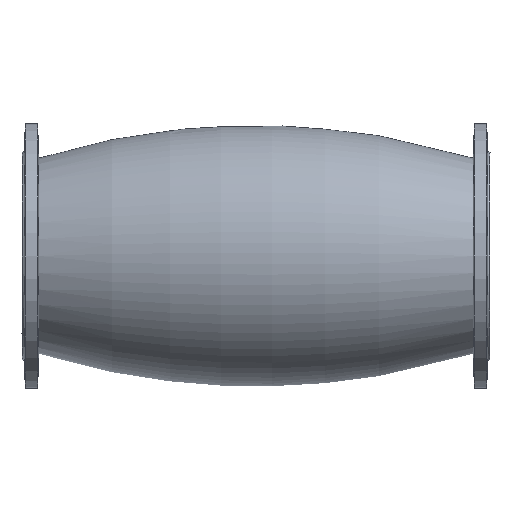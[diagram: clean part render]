
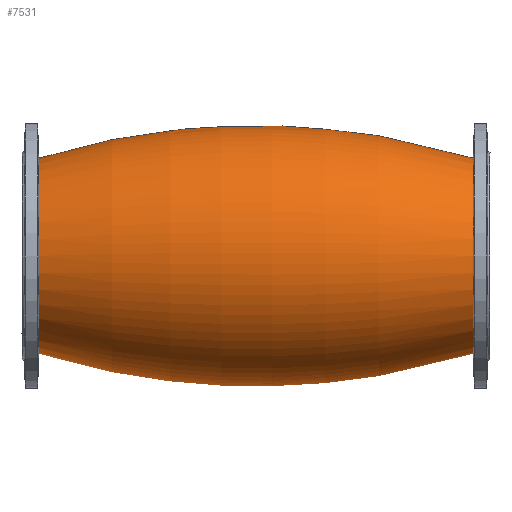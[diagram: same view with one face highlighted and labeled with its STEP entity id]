
A CAD part, front view. The second image highlights one B-rep face of the part: STEP entity #7531.
In plain terms, the highlighted toroidal (fillet/blend) face has major radius 778.594 mm and minor radius 945.903 mm.
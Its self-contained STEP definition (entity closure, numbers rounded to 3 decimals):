
#26=DEGENERATE_TOROIDAL_SURFACE('',#8144,778.594,945.903,
 .F.);
#995=B_SPLINE_CURVE_WITH_KNOTS('',3,(#10376,#10377,#10378,#10379,#10380,
#10381,#10382,#10383,#10384,#10385,#10386,#10387,#10388,#10389,#10390,#10391,
#10392,#10393,#10394,#10395,#10396,#10397,#10398,#10399,#10400,#10401,#10402,
#10403,#10404,#10405,#10406,#10407,#10408,#10409,#10410,#10411,#10412,#10413,
#10414,#10415,#10416,#10417,#10418,#10419,#10420,#10421,#10422,#10423,#10424,
#10425,#10426,#10427,#10428,#10429,#10430,#10431,#10432,#10433,#10434,#10435,
#10436,#10437,#10438,#10439,#10440,#10441,#10442,#10443,#10444,#10445,#10446,
#10447,#10448,#10449,#10450,#10451,#10452,#10453,#10454,#10455,#10456,#10457,
#10458,#10459,#10460,#10461,#10462),.UNSPECIFIED.,.T.,.F.,(1,1,1,1,1,1,
1,1,1,1,1,1,1,1,1,1,1,1,1,1,1,1,1,1,1,1,1,1,1,1,1,1,1,1,1,1,1,1,1,1,1,1,
1,1,1,1,1,1,1,1,1,1,1,1,1,1,1,1,1,1,1,1,1,1,1,1,1,1,1,1,1,1,1,1,1,1,1,1,
1,1,1,1,1,1,1,1,1,1,1,1,1),(-0.021,-0.014,-0.007,
0.,0.014,0.028,0.042,0.049,
0.056,0.069,0.083,0.097,
0.104,0.111,0.125,0.139,0.146,
0.153,0.167,0.181,0.187,
0.194,0.208,0.215,0.222,
0.236,0.25,0.257,0.264,
0.278,0.292,0.306,0.319,
0.333,0.34,0.347,0.354,
0.361,0.375,0.382,0.389,
0.403,0.417,0.431,0.444,
0.451,0.458,0.472,0.486,
0.5,0.507,0.514,0.528,
0.542,0.549,0.555,0.569,
0.583,0.597,0.611,0.625,
0.632,0.639,0.653,0.667,
0.674,0.68,0.694,0.708,
0.715,0.722,0.75,0.757,
0.764,0.778,0.792,0.799,
0.805,0.819,0.826,0.833,
0.847,0.854,0.861,0.868,
0.875,0.882,0.889,0.903,
0.917,0.93),.UNSPECIFIED.);
#2474=ORIENTED_EDGE('',*,*,#3146,.F.);
#2475=ORIENTED_EDGE('',*,*,#2710,.F.);
#2476=ORIENTED_EDGE('',*,*,#3188,.F.);
#2710=EDGE_CURVE('',#3327,#3327,#995,.T.);
#3146=EDGE_CURVE('',#3641,#3641,#3949,.F.);
#3188=EDGE_CURVE('',#3680,#3680,#3960,.F.);
#3327=VERTEX_POINT('',#10463);
#3641=VERTEX_POINT('',#11952);
#3680=VERTEX_POINT('',#13126);
#3949=CIRCLE('',#8113,125.398);
#3960=CIRCLE('',#8143,125.398);
#4432=EDGE_LOOP('',(#2474));
#4433=EDGE_LOOP('',(#2475));
#4434=EDGE_LOOP('',(#2476));
#4910=FACE_BOUND('',#4432,.T.);
#4911=FACE_BOUND('',#4433,.T.);
#4912=FACE_BOUND('',#4434,.T.);
#7531=ADVANCED_FACE('',(#4910,#4911,#4912),#26,.F.);
#8113=AXIS2_PLACEMENT_3D('',#11951,#9609,#9610);
#8143=AXIS2_PLACEMENT_3D('',#13125,#9672,#9673);
#8144=AXIS2_PLACEMENT_3D('',#13127,#9674,#9675);
#9609=DIRECTION('',(-1.,0.,0.));
#9610=DIRECTION('',(0.,0.,1.));
#9672=DIRECTION('',(1.,0.,0.));
#9673=DIRECTION('',(0.,0.,-1.));
#9674=DIRECTION('',(1.,0.,0.));
#9675=DIRECTION('',(0.,0.,-1.));
#10376=CARTESIAN_POINT('',(235.845,113.101,-120.349));
#10377=CARTESIAN_POINT('',(228.279,116.766,-116.073));
#10378=CARTESIAN_POINT('',(219.392,121.45,-110.173));
#10379=CARTESIAN_POINT('',(209.511,127.099,-102.199));
#10380=CARTESIAN_POINT('',(201.898,131.728,-94.787));
#10381=CARTESIAN_POINT('',(196.18,135.331,-88.373));
#10382=CARTESIAN_POINT('',(190.7,138.858,-81.601));
#10383=CARTESIAN_POINT('',(184.494,142.97,-72.69));
#10384=CARTESIAN_POINT('',(178.056,147.358,-61.259));
#10385=CARTESIAN_POINT('',(173.559,150.493,-51.086));
#10386=CARTESIAN_POINT('',(170.513,152.643,-42.513));
#10387=CARTESIAN_POINT('',(167.868,154.524,-33.668));
#10388=CARTESIAN_POINT('',(165.423,156.283,-22.442));
#10389=CARTESIAN_POINT('',(164.109,157.24,-10.933));
#10390=CARTESIAN_POINT('',(163.771,157.493,-1.512));
#10391=CARTESIAN_POINT('',(163.922,157.395,7.846));
#10392=CARTESIAN_POINT('',(164.999,156.633,19.376));
#10393=CARTESIAN_POINT('',(167.236,155.047,30.726));
#10394=CARTESIAN_POINT('',(169.717,153.299,39.646));
#10395=CARTESIAN_POINT('',(172.599,151.28,48.285));
#10396=CARTESIAN_POINT('',(176.076,148.868,56.581));
#10397=CARTESIAN_POINT('',(180.121,146.106,64.536));
#10398=CARTESIAN_POINT('',(184.555,143.115,72.287));
#10399=CARTESIAN_POINT('',(190.674,139.069,81.358));
#10400=CARTESIAN_POINT('',(197.528,134.693,89.688));
#10401=CARTESIAN_POINT('',(203.448,131.044,95.925));
#10402=CARTESIAN_POINT('',(209.679,127.304,101.895));
#10403=CARTESIAN_POINT('',(217.887,122.593,108.707));
#10404=CARTESIAN_POINT('',(228.42,117.005,115.904));
#10405=CARTESIAN_POINT('',(239.688,111.624,122.148));
#10406=CARTESIAN_POINT('',(251.822,106.629,127.423));
#10407=CARTESIAN_POINT('',(262.378,103.128,130.834));
#10408=CARTESIAN_POINT('',(271.158,100.84,132.969));
#10409=CARTESIAN_POINT('',(277.94,99.418,134.261));
#10410=CARTESIAN_POINT('',(284.858,98.345,135.215));
#10411=CARTESIAN_POINT('',(294.097,97.439,136.01));
#10412=CARTESIAN_POINT('',(303.413,97.335,136.1));
#10413=CARTESIAN_POINT('',(312.821,98.072,135.456));
#10414=CARTESIAN_POINT('',(322.022,99.327,134.345));
#10415=CARTESIAN_POINT('',(333.203,101.777,132.125));
#10416=CARTESIAN_POINT('',(346.173,105.891,128.164));
#10417=CARTESIAN_POINT('',(358.244,110.715,123.141));
#10418=CARTESIAN_POINT('',(367.734,115.142,118.095));
#10419=CARTESIAN_POINT('',(375.006,118.832,113.542));
#10420=CARTESIAN_POINT('',(382.084,122.604,108.628));
#10421=CARTESIAN_POINT('',(390.387,127.318,101.942));
#10422=CARTESIAN_POINT('',(399.56,132.858,93.025));
#10423=CARTESIAN_POINT('',(406.554,137.29,84.815));
#10424=CARTESIAN_POINT('',(411.751,140.675,77.734));
#10425=CARTESIAN_POINT('',(416.59,143.879,70.423));
#10426=CARTESIAN_POINT('',(421.996,147.538,60.813));
#10427=CARTESIAN_POINT('',(426.512,150.66,50.567));
#10428=CARTESIAN_POINT('',(429.57,152.798,41.909));
#10429=CARTESIAN_POINT('',(432.181,154.634,33.119));
#10430=CARTESIAN_POINT('',(434.603,156.351,21.924));
#10431=CARTESIAN_POINT('',(436.161,157.455,8.168));
#10432=CARTESIAN_POINT('',(436.292,157.534,-6.025));
#10433=CARTESIAN_POINT('',(434.976,156.572,-19.883));
#10434=CARTESIAN_POINT('',(432.737,154.958,-31.19));
#10435=CARTESIAN_POINT('',(430.246,153.182,-40.116));
#10436=CARTESIAN_POINT('',(427.346,151.129,-48.781));
#10437=CARTESIAN_POINT('',(422.99,148.082,-59.138));
#10438=CARTESIAN_POINT('',(417.686,144.45,-68.935));
#10439=CARTESIAN_POINT('',(412.915,141.254,-76.385));
#10440=CARTESIAN_POINT('',(407.862,137.923,-83.495));
#10441=CARTESIAN_POINT('',(401.003,133.518,-91.811));
#10442=CARTESIAN_POINT('',(393.422,128.868,-99.413));
#10443=CARTESIAN_POINT('',(386.931,125.066,-105.057));
#10444=CARTESIAN_POINT('',(376.891,119.388,-112.985));
#10445=CARTESIAN_POINT('',(366.026,113.792,-119.685));
#10446=CARTESIAN_POINT('',(354.166,108.692,-125.171));
#10447=CARTESIAN_POINT('',(345.952,105.464,-128.496));
#10448=CARTESIAN_POINT('',(335.363,101.935,-131.905));
#10449=CARTESIAN_POINT('',(324.265,99.284,-134.311));
#10450=CARTESIAN_POINT('',(314.997,97.845,-135.581));
#10451=CARTESIAN_POINT('',(305.741,96.942,-136.366));
#10452=CARTESIAN_POINT('',(296.469,96.854,-136.441));
#10453=CARTESIAN_POINT('',(287.2,97.586,-135.807));
#10454=CARTESIAN_POINT('',(277.892,98.865,-134.684));
#10455=CARTESIAN_POINT('',(268.926,100.859,-132.89));
#10456=CARTESIAN_POINT('',(260.255,103.412,-130.478));
#10457=CARTESIAN_POINT('',(253.877,105.579,-128.358));
#10458=CARTESIAN_POINT('',(247.672,107.945,-125.952));
#10459=CARTESIAN_POINT('',(241.668,110.462,-123.281));
#10460=CARTESIAN_POINT('',(235.845,113.101,-120.349));
#10461=CARTESIAN_POINT('',(228.279,116.766,-116.073));
#10462=CARTESIAN_POINT('',(219.392,121.45,-110.173));
#10463=CARTESIAN_POINT('',(230.208,115.857,-117.105));
#11951=CARTESIAN_POINT('',(578.442,0.,0.));
#11952=CARTESIAN_POINT('',(578.442,0.,125.398));
#13125=CARTESIAN_POINT('',(21.558,0.,0.));
#13126=CARTESIAN_POINT('',(21.558,0.,-125.398));
#13127=CARTESIAN_POINT('',(300.,0.,0.));
